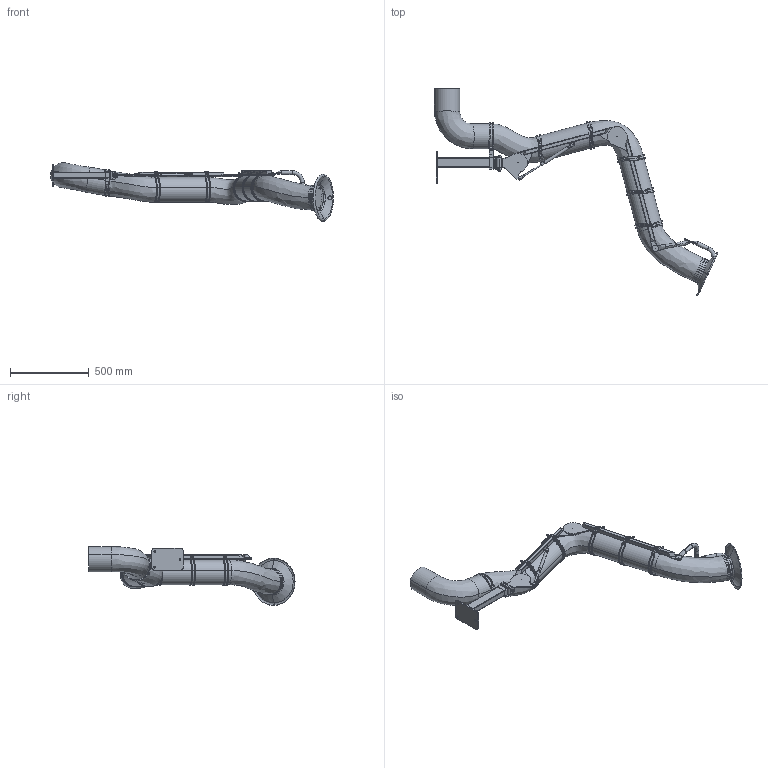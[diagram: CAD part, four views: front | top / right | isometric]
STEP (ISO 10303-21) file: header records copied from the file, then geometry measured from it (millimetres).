
FILE_DESCRIPTION((''),'2;1');
FILE_NAME('PSR_2000-160_EXC','2022-10-04T11:33:57',('Tomas Bellgran'),(''),'CREO PARAMETRIC BY PTC INC, 2018260','CREO PARAMETRIC BY PTC INC, 2018260','');
FILE_SCHEMA(('AUTOMOTIVE_DESIGN { 1 0 10303 214 1 1 1 1 }'));
Length unit declared in the file: millimetre
Products named in the file (37): 141554; 141580; 141581; 122701; 141512; 141556; 141582; 141587; 141522; 121391; 131150; 139382; 131151; 131172; 144356; 141589; 134343_AF0; G_P136_WELD-REF; 141590; 122717_LIGHT; 120127_COMPL_LIGHT; 130315; ROD_STAB_8-160-REF; 131095; 130320_AF3; 131145; 139631; 139616; 139615; 139614; 139628; 141632; 124460; 107523-11; 121000_LIGHT; 107523-20; PSR_2000-160_EXC
Assembly tree (52 placements, depth 3):
  PSR_2000-160_EXC
    141512
      141554
      141580
      141581
      122701
    141522
      141556
      141582
      141587
    121391  x4
    131150
    131172
      139382
      131151
    144356  x2
    141590
      141589
      134343_AF0
      G_P136_WELD-REF
    122717_LIGHT
    120127_COMPL_LIGHT
    130320_AF3
      130315
      ROD_STAB_8-160-REF
      131095  x2
    131145  x2
    139628
      139631  x3
      139616
      139615
      139614
    141632
    124460  x5
    107523-11  x5
    121000_LIGHT
    107523-20
Bounding box: 1795.45 x 1307.27 x 372.93 mm (x, y, z)
Volume: 51981101.1 mm3; surface area: 2151908.7 mm2
Topology: 46 solids, 46 shells, 1080 faces, 2565 edges, 1576 vertices
Faces by surface type: plane 386, cylinder 335, bspline 218, torus 74, cone 42, extrusion 23, sphere 2
Entity records: 41287 total; most frequent: CARTESIAN_POINT 16031, DIRECTION 3169, ORIENTED_EDGE 2970, PRESENTATION_STYLE_ASSIGNMENT 2080, STYLED_ITEM 2053, CURVE_STYLE 1500, EDGE_CURVE 1485, AXIS2_PLACEMENT_3D 1239
